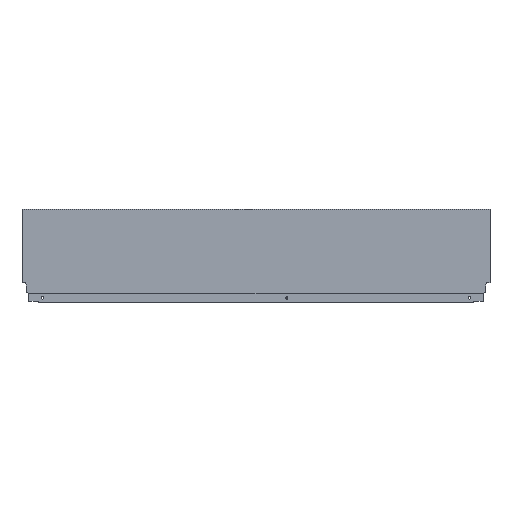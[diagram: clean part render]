
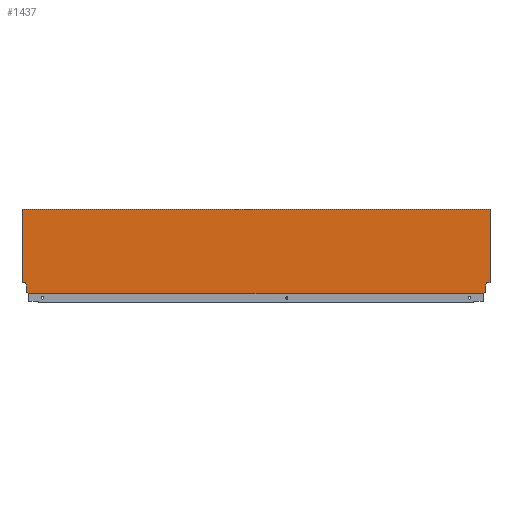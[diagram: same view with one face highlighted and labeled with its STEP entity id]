
A CAD part, top view. The second image highlights one B-rep face of the part: STEP entity #1437.
In plain terms, the highlighted planar face has unit normal (0, 0, 1).
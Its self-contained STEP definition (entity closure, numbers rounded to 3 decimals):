
#61 = DIRECTION ( 'NONE',  ( -0.174, -0.985, 0. ) ) ;
#66 = CARTESIAN_POINT ( 'NONE',  ( -7.06, 21.2, 7.5 ) ) ;
#72 = DIRECTION ( 'NONE',  ( 1., 0., 0. ) ) ;
#73 = CARTESIAN_POINT ( 'NONE',  ( -911., 0., 7.5 ) ) ;
#74 = DIRECTION ( 'NONE',  ( -1., 0., 0. ) ) ;
#75 = CARTESIAN_POINT ( 'NONE',  ( -916., 21.2, 7.5 ) ) ;
#76 = DIRECTION ( 'NONE',  ( -0.174, 0.985, 0. ) ) ;
#77 = CARTESIAN_POINT ( 'NONE',  ( -903.94, 21.2, 7.5 ) ) ;
#78 = DIRECTION ( 'NONE',  ( 0., 1., 0. ) ) ;
#79 = CARTESIAN_POINT ( 'NONE',  ( -902.1, 10.765, 7.5 ) ) ;
#80 = DIRECTION ( 'NONE',  ( -1., 0., 0. ) ) ;
#81 = DIRECTION ( 'NONE',  ( -0.94, 0.342, 0. ) ) ;
#82 = CARTESIAN_POINT ( 'NONE',  ( 0., 21.2, 7.5 ) ) ;
#83 = CARTESIAN_POINT ( 'NONE',  ( -902.1, 2.64, 7.5 ) ) ;
#84 = DIRECTION ( 'NONE',  ( 0., -1., 0. ) ) ;
#85 = CARTESIAN_POINT ( 'NONE',  ( -13.004, 1.146, 7.5 ) ) ;
#87 = DIRECTION ( 'NONE',  ( 0., -1., 0. ) ) ;
#88 = DIRECTION ( 'NONE',  ( 1., 0., 0. ) ) ;
#89 = CARTESIAN_POINT ( 'NONE',  ( -911., 0., 7.5 ) ) ;
#91 = DIRECTION ( 'NONE',  ( -0.94, -0.342, 0. ) ) ;
#92 = CARTESIAN_POINT ( 'NONE',  ( -8.9, 2.64, 7.5 ) ) ;
#93 = CARTESIAN_POINT ( 'NONE',  ( -911., 164.7, 7.5 ) ) ;
#94 = DIRECTION ( 'NONE',  ( 0., -1., 0. ) ) ;
#95 = CARTESIAN_POINT ( 'NONE',  ( -8.9, 10.765, 7.5 ) ) ;
#96 = DIRECTION ( 'NONE',  ( 0., -1., 0. ) ) ;
#97 = CARTESIAN_POINT ( 'NONE',  ( 0., 0., 7.5 ) ) ;
#195 = CARTESIAN_POINT ( 'NONE',  ( 0., 21.2, 7.5 ) ) ;
#203 = CARTESIAN_POINT ( 'NONE',  ( -902.1, 2.64, 7.5 ) ) ;
#205 = CARTESIAN_POINT ( 'NONE',  ( -13.004, 0., 7.5 ) ) ;
#207 = CARTESIAN_POINT ( 'NONE',  ( -902.1, 10.765, 7.5 ) ) ;
#212 = CARTESIAN_POINT ( 'NONE',  ( 0., 164.7, 7.5 ) ) ;
#218 = CARTESIAN_POINT ( 'NONE',  ( -7.06, 21.2, 7.5 ) ) ;
#219 = CARTESIAN_POINT ( 'NONE',  ( -8.9, 10.765, 7.5 ) ) ;
#220 = CARTESIAN_POINT ( 'NONE',  ( -897.996, 0., 7.5 ) ) ;
#221 = CARTESIAN_POINT ( 'NONE',  ( -13.004, 1.146, 7.5 ) ) ;
#223 = CARTESIAN_POINT ( 'NONE',  ( -903.94, 21.2, 7.5 ) ) ;
#230 = CARTESIAN_POINT ( 'NONE',  ( -911., 21.2, 7.5 ) ) ;
#242 = CARTESIAN_POINT ( 'NONE',  ( -911., 164.7, 7.5 ) ) ;
#243 = CARTESIAN_POINT ( 'NONE',  ( -897.996, 1.146, 7.5 ) ) ;
#244 = CARTESIAN_POINT ( 'NONE',  ( -8.9, 2.64, 7.5 ) ) ;
#330 = VERTEX_POINT ( 'NONE', #244 ) ;
#331 = VERTEX_POINT ( 'NONE', #243 ) ;
#332 = VERTEX_POINT ( 'NONE', #242 ) ;
#344 = VERTEX_POINT ( 'NONE', #230 ) ;
#351 = VERTEX_POINT ( 'NONE', #223 ) ;
#353 = VERTEX_POINT ( 'NONE', #221 ) ;
#354 = VERTEX_POINT ( 'NONE', #220 ) ;
#355 = VERTEX_POINT ( 'NONE', #219 ) ;
#356 = VERTEX_POINT ( 'NONE', #218 ) ;
#362 = VERTEX_POINT ( 'NONE', #212 ) ;
#367 = VERTEX_POINT ( 'NONE', #207 ) ;
#369 = VERTEX_POINT ( 'NONE', #205 ) ;
#371 = VERTEX_POINT ( 'NONE', #203 ) ;
#379 = VERTEX_POINT ( 'NONE', #195 ) ;
#431 = EDGE_CURVE ( 'NONE', #354, #331, #485, .T. ) ;
#456 = DIRECTION ( 'NONE',  ( 0., 1., 0. ) ) ;
#460 = CARTESIAN_POINT ( 'NONE',  ( -897.996, 1.146, 7.5 ) ) ;
#485 = LINE ( 'NONE', #460, #809 ) ;
#489 = PLANE ( 'NONE',  #615 ) ;
#498 = DIRECTION ( 'NONE',  ( 1., 0., 0. ) ) ;
#499 = DIRECTION ( 'NONE',  ( 0., 0., 1. ) ) ;
#509 = CARTESIAN_POINT ( 'NONE',  ( -911., 0., 7.5 ) ) ;
#566 = EDGE_CURVE ( 'NONE', #332, #362, #922, .T. ) ;
#568 = EDGE_CURVE ( 'NONE', #379, #356, #926, .T. ) ;
#570 = EDGE_CURVE ( 'NONE', #356, #355, #930, .T. ) ;
#571 = EDGE_CURVE ( 'NONE', #362, #379, #932, .T. ) ;
#572 = EDGE_CURVE ( 'NONE', #355, #330, #934, .T. ) ;
#573 = EDGE_CURVE ( 'NONE', #330, #353, #936, .T. ) ;
#574 = EDGE_CURVE ( 'NONE', #332, #344, #938, .T. ) ;
#575 = EDGE_CURVE ( 'NONE', #353, #369, #917, .T. ) ;
#576 = EDGE_CURVE ( 'NONE', #331, #371, #942, .T. ) ;
#577 = EDGE_CURVE ( 'NONE', #371, #367, #944, .T. ) ;
#578 = EDGE_CURVE ( 'NONE', #367, #351, #946, .T. ) ;
#579 = EDGE_CURVE ( 'NONE', #351, #344, #948, .T. ) ;
#580 = EDGE_CURVE ( 'NONE', #354, #369, #950, .T. ) ;
#615 = AXIS2_PLACEMENT_3D ( 'NONE', #509, #499, #498 ) ;
#809 = VECTOR ( 'NONE', #456, 1000. ) ;
#917 = LINE ( 'NONE', #85, #940 ) ;
#922 = LINE ( 'NONE', #93, #923 ) ;
#923 = VECTOR ( 'NONE', #88, 1000. ) ;
#926 = LINE ( 'NONE', #82, #927 ) ;
#927 = VECTOR ( 'NONE', #80, 1000. ) ;
#930 = LINE ( 'NONE', #66, #931 ) ;
#931 = VECTOR ( 'NONE', #61, 1000. ) ;
#932 = LINE ( 'NONE', #97, #933 ) ;
#933 = VECTOR ( 'NONE', #96, 1000. ) ;
#934 = LINE ( 'NONE', #95, #935 ) ;
#935 = VECTOR ( 'NONE', #94, 1000. ) ;
#936 = LINE ( 'NONE', #92, #937 ) ;
#937 = VECTOR ( 'NONE', #91, 1000. ) ;
#938 = LINE ( 'NONE', #89, #939 ) ;
#939 = VECTOR ( 'NONE', #87, 1000. ) ;
#940 = VECTOR ( 'NONE', #84, 1000. ) ;
#942 = LINE ( 'NONE', #83, #943 ) ;
#943 = VECTOR ( 'NONE', #81, 1000. ) ;
#944 = LINE ( 'NONE', #79, #945 ) ;
#945 = VECTOR ( 'NONE', #78, 1000. ) ;
#946 = LINE ( 'NONE', #77, #947 ) ;
#947 = VECTOR ( 'NONE', #76, 1000. ) ;
#948 = LINE ( 'NONE', #75, #949 ) ;
#949 = VECTOR ( 'NONE', #74, 1000. ) ;
#950 = LINE ( 'NONE', #73, #951 ) ;
#951 = VECTOR ( 'NONE', #72, 1000. ) ;
#984 = FACE_OUTER_BOUND ( 'NONE', #1359, .T. ) ;
#1292 = ORIENTED_EDGE ( 'NONE', *, *, #571, .F. ) ;
#1295 = ORIENTED_EDGE ( 'NONE', *, *, #572, .F. ) ;
#1312 = ORIENTED_EDGE ( 'NONE', *, *, #570, .F. ) ;
#1313 = ORIENTED_EDGE ( 'NONE', *, *, #568, .F. ) ;
#1319 = ORIENTED_EDGE ( 'NONE', *, *, #566, .F. ) ;
#1359 = EDGE_LOOP ( 'NONE', ( #1371, #1411, #1410, #1387, #1386, #1385, #1368, #1369, #1370, #1295, #1312, #1313, #1292, #1319 ) ) ;
#1368 = ORIENTED_EDGE ( 'NONE', *, *, #580, .T. ) ;
#1369 = ORIENTED_EDGE ( 'NONE', *, *, #575, .F. ) ;
#1370 = ORIENTED_EDGE ( 'NONE', *, *, #573, .F. ) ;
#1371 = ORIENTED_EDGE ( 'NONE', *, *, #574, .T. ) ;
#1385 = ORIENTED_EDGE ( 'NONE', *, *, #431, .F. ) ;
#1386 = ORIENTED_EDGE ( 'NONE', *, *, #576, .F. ) ;
#1387 = ORIENTED_EDGE ( 'NONE', *, *, #577, .F. ) ;
#1410 = ORIENTED_EDGE ( 'NONE', *, *, #578, .F. ) ;
#1411 = ORIENTED_EDGE ( 'NONE', *, *, #579, .F. ) ;
#1437 = ADVANCED_FACE ( 'NONE', ( #984 ), #489, .T. ) ;
